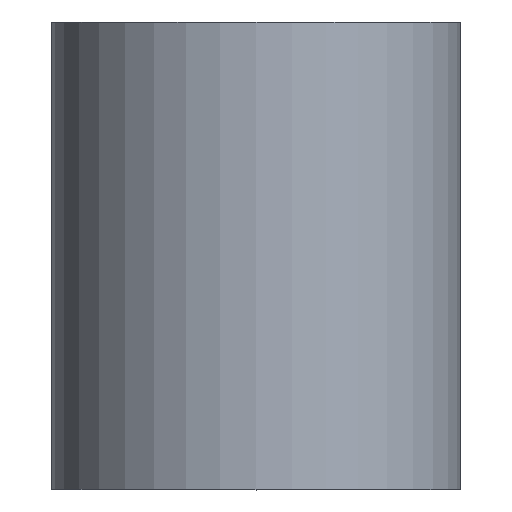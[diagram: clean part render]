
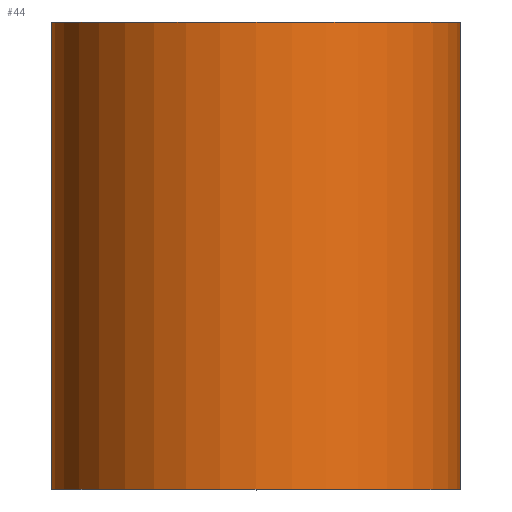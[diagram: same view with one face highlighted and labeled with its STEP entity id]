
A CAD part, top view. The second image highlights one B-rep face of the part: STEP entity #44.
In plain terms, the highlighted cylindrical face has radius 3.5 mm (diameter 7 mm), a partial arc.
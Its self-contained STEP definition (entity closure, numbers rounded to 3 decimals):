
#1 = EDGE_LOOP ( 'NONE', ( #26, #214, #11, #255 ) ) ;
#11 = ORIENTED_EDGE ( 'NONE', *, *, #93, .F. ) ;
#16 = CYLINDRICAL_SURFACE ( 'NONE', #71, 3.5 ) ;
#19 = VERTEX_POINT ( 'NONE', #189 ) ;
#26 = ORIENTED_EDGE ( 'NONE', *, *, #238, .T. ) ;
#29 = DIRECTION ( 'NONE',  ( 0., 1., 0. ) ) ;
#44 = ADVANCED_FACE ( 'NONE', ( #91 ), #16, .T. ) ;
#55 = DIRECTION ( 'NONE',  ( 0., 1., 0. ) ) ;
#56 = CIRCLE ( 'NONE', #202, 3.5 ) ;
#59 = DIRECTION ( 'NONE',  ( -1., 0., 0. ) ) ;
#65 = CARTESIAN_POINT ( 'NONE',  ( -3.5, 0., 0. ) ) ;
#71 = AXIS2_PLACEMENT_3D ( 'NONE', #287, #55, #59 ) ;
#83 = CARTESIAN_POINT ( 'NONE',  ( 0., 0., 0. ) ) ;
#91 = FACE_OUTER_BOUND ( 'NONE', #1, .T. ) ;
#93 = EDGE_CURVE ( 'NONE', #206, #19, #245, .T. ) ;
#100 = CARTESIAN_POINT ( 'NONE',  ( 0., 8., 0. ) ) ;
#105 = CARTESIAN_POINT ( 'NONE',  ( 3.5, 0., 0. ) ) ;
#130 = DIRECTION ( 'NONE',  ( 0., 1., 0. ) ) ;
#143 = EDGE_CURVE ( 'NONE', #249, #19, #295, .T. ) ;
#147 = DIRECTION ( 'NONE',  ( 0., 1., 0. ) ) ;
#159 = EDGE_CURVE ( 'NONE', #197, #206, #284, .T. ) ;
#170 = VECTOR ( 'NONE', #147, 1000. ) ;
#171 = CARTESIAN_POINT ( 'NONE',  ( -3.5, 0., 0. ) ) ;
#173 = DIRECTION ( 'NONE',  ( -1., 0., 0. ) ) ;
#189 = CARTESIAN_POINT ( 'NONE',  ( 3.5, 8., 0. ) ) ;
#197 = VERTEX_POINT ( 'NONE', #171 ) ;
#202 = AXIS2_PLACEMENT_3D ( 'NONE', #83, #242, #173 ) ;
#206 = VERTEX_POINT ( 'NONE', #290 ) ;
#214 = ORIENTED_EDGE ( 'NONE', *, *, #143, .T. ) ;
#222 = CARTESIAN_POINT ( 'NONE',  ( 3.5, 0., 0. ) ) ;
#238 = EDGE_CURVE ( 'NONE', #197, #249, #56, .T. ) ;
#242 = DIRECTION ( 'NONE',  ( 0., 1., 0. ) ) ;
#245 = CIRCLE ( 'NONE', #252, 3.5 ) ;
#249 = VERTEX_POINT ( 'NONE', #222 ) ;
#252 = AXIS2_PLACEMENT_3D ( 'NONE', #100, #29, #281 ) ;
#255 = ORIENTED_EDGE ( 'NONE', *, *, #159, .F. ) ;
#276 = VECTOR ( 'NONE', #130, 1000. ) ;
#281 = DIRECTION ( 'NONE',  ( -1., 0., 0. ) ) ;
#284 = LINE ( 'NONE', #65, #276 ) ;
#287 = CARTESIAN_POINT ( 'NONE',  ( 0., 0., 0. ) ) ;
#290 = CARTESIAN_POINT ( 'NONE',  ( -3.5, 8., 0. ) ) ;
#295 = LINE ( 'NONE', #105, #170 ) ;
